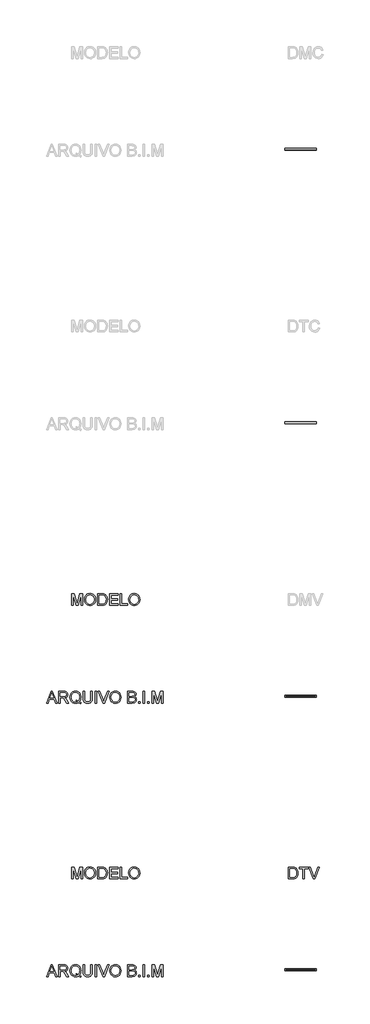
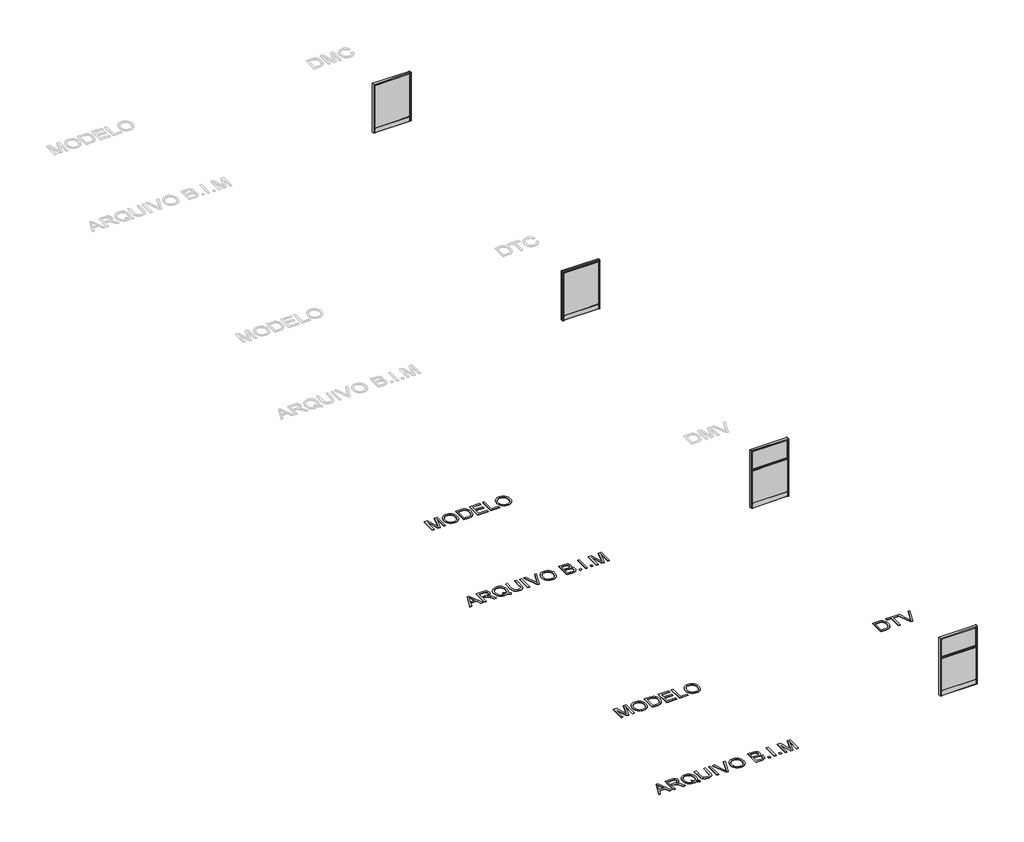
# One storey, part 1 of 3: 5 proxies, 4 furniture elements.
"""IFC4 building model written with IfcOpenShell, lengths in millimetres."""

from ifc_helpers import new_model, si_unit, origin, origin_with_axes, place, context, project, spatial, polyline, outline, extrude, transform, mapped, element, save
from components import dmc_0811_314b756a, dmv_0813_80cdf125

model = new_model("IFC4")

# Units and contexts
model_context = context("Model", 3, world=origin())
ifc_project = project(units=[si_unit("LENGTHUNIT", "METRE", prefix="MILLI")], contexts=[model_context])

# Site, building, storey
site = spatial("IfcSite", under=ifc_project)
building = spatial("IfcBuilding", under=site)
storey = spatial("IfcBuildingStorey", under=building, Name="Marelli - Linha DIVISION - Planta Baixa", Elevation=0.0)

# Proxies
placement = place(None, origin())
element("IfcBuildingElementProxy", 1, Name="300mm Arial", ObjectType="300mm Arial", at=placement, inside=storey, context=model_context, shape_type="SweptSolid", body=[
    extrude(outline(polyline([(4390.580402, -17280.5663201), (4510.8778144, -16979.1973896), (4542.9571244, -16979.1973896), (4663.2545368, -17280.5663201), (4623.449705, -17280.5663201), (4588.9423738, -17186.3885293), (4464.8189886, -17186.3885293), (4430.3852339, -17280.5663201), (4390.580402, -17280.5663201)]), holes=[polyline([(4478.6513517, -17148.717413), (4575.1835872, -17148.717413), (4548.0338959, -17074.6259792), (4526.9174694, -17016.8685059), (4508.1554877, -17068.1512561), (4478.6513517, -17148.717413)])]), origin_with_axes(), (0.0, 0.0, 1.0), 10.0),
    extrude(outline(polyline([(4703.5008271, -17280.5663201), (4703.5008271, -16979.1973896), (4833.3631714, -16979.1973896), (4868.2659757, -16981.2299376), (4893.6590304, -16987.3275817), (4912.2186771, -16998.5847708), (4926.6212572, -17016.0959537), (4935.8642923, -17037.8101885), (4938.945304, -17061.6765329), (4933.8409413, -17091.3646099), (4918.5278533, -17115.9759154), (4906.9280741, -17126.0052983), (4892.5461874, -17134.0205273), (4855.4360911, -17144.0085235), (4876.8468232, -17160.1217548), (4907.3810288, -17198.8965171), (4957.6337094, -17280.5663201), (4913.855752, -17280.5663201), (4874.6395313, -17218.0999573), (4846.3126176, -17176.750021), (4826.4102017, -17157.2154871), (4808.4943485, -17150.0417882), (4786.642158, -17148.717413), (4741.1719434, -17148.717413), (4741.1719434, -17280.5663201), (4703.5008271, -17280.5663201)]), holes=[polyline([(4741.1719434, -17111.0462967), (4825.4904967, -17111.0462967), (4849.706329, -17109.7127245), (4868.4959019, -17105.7120078), (4882.6409647, -17098.7774322), (4892.9232664, -17088.6422832), (4899.1864574, -17076.3826157), (4901.2741877, -17063.0744845), (4897.2918651, -17044.6987789), (4885.3448973, -17029.8915286), (4864.7894908, -17020.1242616), (4834.9818522, -17016.8685059), (4741.1719434, -17016.8685059), (4741.1719434, -17111.0462967)])]), origin_with_axes(), (0.0, 0.0, 1.0), 10.0),
    extrude(outline(polyline([(5231.2643374, -17244.4403081), (5255.5997314, -17263.036743), (5277.9853508, -17275.8574305), (5267.8318077, -17303.4485802), (5236.7641732, -17289.0460001), (5205.8069033, -17268.205485), (5170.9500843, -17281.0077785), (5132.5983863, -17285.2752096), (5094.0627473, -17280.3547879), (5059.2427164, -17265.5935229), (5030.0788713, -17241.9203165), (5008.5117893, -17210.2640708), (4995.185264, -17172.3630282), (4990.7430889, -17129.9554312), (4995.176067, -17087.511046), (5008.4750011, -17049.0581805), (5029.9593096, -17016.9512794), (5058.9484108, -16993.5447874), (5093.639683, -16979.2525719), (5132.2305043, -16974.4885001), (5171.1248282, -16979.3629365), (5205.9908443, -16993.9862458), (5234.9339603, -17017.3835407), (5256.0595839, -17048.5799339), (5268.9722419, -17085.9199564), (5273.2764612, -17127.7481393), (5270.6644991, -17162.5313819), (5262.8286126, -17193.5990164), (5249.7136194, -17220.9142546), (5231.2643374, -17244.4403081)]), holes=[polyline([(5142.9726585, -17194.3347804), (5174.6472983, -17206.3093393), (5200.215097, -17222.9559996), (5215.6983305, -17205.4816049), (5226.7577829, -17184.1076609), (5233.3934544, -17158.8341679), (5235.6053449, -17129.6611256), (5232.478348, -17096.5057608), (5223.0973571, -17067.8201623), (5207.6922985, -17044.3308969), (5186.4930986, -17026.7645316), (5160.934497, -17015.8108452), (5132.4512335, -17012.1596164), (5110.966925, -17014.0059242), (5091.3956028, -17019.5448474), (5073.7372671, -17028.7763863), (5057.9919177, -17041.7005406), (5045.0516685, -17058.2897193), (5035.8086334, -17078.5163313), (5030.2628123, -17102.3803764), (5028.4142052, -17129.8818548), (5030.2421189, -17156.6659634), (5035.7258599, -17180.1437324), (5044.8654282, -17200.3151621), (5057.6608239, -17217.1802523), (5073.2981079, -17230.4906827), (5090.9633415, -17239.9981331), (5110.6565245, -17245.7026032), (5132.3776571, -17247.6040933), (5153.2917485, -17245.6727128), (5172.918253, -17239.8785714), (5153.6228423, -17229.853787), (5133.2605739, -17223.1767288), (5142.9726585, -17194.3347804)])]), origin_with_axes(), (0.0, 0.0, 1.0), 10.0),
    extrude(outline(polyline([(5527.5564963, -16979.1973896), (5565.2276126, -16979.1973896), (5565.2276126, -17153.0584205), (5562.6708327, -17193.7737604), (5555.0004931, -17225.1265034), (5540.6714894, -17249.3147446), (5518.1387172, -17268.5365788), (5487.3469942, -17281.0905519), (5448.2411381, -17285.2752096), (5409.9906077, -17281.6331779), (5379.4104168, -17270.7070826), (5356.4913685, -17252.8740029), (5341.2242657, -17228.5110178), (5332.6434182, -17195.8338995), (5329.7831357, -17153.0584205), (5329.7831357, -16979.1973896), (5367.454252, -16979.1973896), (5367.454252, -17151.7340454), (5369.3120561, -17185.588386), (5374.8854683, -17209.1604248), (5384.9838291, -17225.4851883), (5400.4164788, -17237.597703), (5420.5396239, -17245.1024957), (5444.709471, -17247.6040933), (5483.0243808, -17242.6560805), (5497.3671801, -17236.4710644), (5508.500209, -17227.812042), (5516.8373347, -17215.6351479), (5522.7924245, -17198.8965171), (5527.5564963, -17151.7340454), (5527.5564963, -16979.1973896)])), origin_with_axes(), (0.0, 0.0, 1.0), 10.0),
    extrude(outline(polyline([(5635.8609557, -17280.5663201), (5635.8609557, -16979.1973896), (5673.532072, -16979.1973896), (5673.532072, -17280.5663201), (5635.8609557, -17280.5663201)])), origin_with_axes(), (0.0, 0.0, 1.0), 10.0),
    extrude(outline(polyline([(5837.9017474, -17280.5663201), (5717.972217, -16979.1973896), (5758.2920837, -16979.1973896), (5838.563935, -17196.3213432), (5854.8243192, -17245.2496485), (5870.8639742, -17196.3213432), (5951.3565547, -16979.1973896), (5991.6764214, -16979.1973896), (5876.8236625, -17280.5663201), (5837.9017474, -17280.5663201)])), origin_with_axes(), (0.0, 0.0, 1.0), 10.0),
    extrude(outline(polyline([(6012.5721187, -17133.8549804), (6015.0829134, -17098.5061192), (6022.6152972, -17067.213157), (6035.1692703, -17039.9760937), (6052.7448326, -17016.7949295), (6074.288922, -16998.2858666), (6098.7484761, -16985.0651074), (6126.1234951, -16977.1326519), (6156.4139789, -16974.4885001), (6195.9428992, -16979.454907), (6231.3883295, -16994.3541278), (6260.8188891, -17018.1376988), (6282.3031976, -17049.7571563), (6295.4365848, -17087.68579), (6299.8143806, -17130.3968896), (6295.2066586, -17173.6782064), (6281.3834926, -17212.140269), (6259.1082378, -17243.8149088), (6229.1442493, -17266.733957), (6194.0023217, -17280.6398965), (6156.1932497, -17285.2752096), (6116.057324, -17280.1524528), (6080.4095587, -17264.7841825), (6051.0525754, -17240.5591531), (6029.7889961, -17208.8661192), (6016.8763381, -17172.3998164), (6012.5721187, -17133.8549804)]), holes=[polyline([(6050.2432351, -17134.2228624), (6052.126331, -17159.1974513), (6057.7756189, -17181.3669401), (6067.1910987, -17200.7313286), (6080.3727705, -17217.2906169), (6096.3963306, -17230.5527628), (6114.3374757, -17240.0257242), (6134.1962056, -17245.709501), (6155.9725205, -17247.6040933), (6178.1213158, -17245.6911069), (6198.2145706, -17239.9521478), (6216.2522846, -17230.3872159), (6232.2344581, -17216.9963113), (6245.3195608, -17200.0875351), (6254.6660627, -17179.9689885), (6260.2739639, -17156.6406715), (6262.1432643, -17130.102584), (6258.9426909, -17096.7540812), (6249.3409708, -17067.9305269), (6233.5864244, -17044.358488), (6211.9273719, -17026.7645316), (6185.7985532, -17015.8108452), (6156.6347081, -17012.1596164), (6135.6148506, -17013.9185522), (6116.1125063, -17019.1953595), (6098.1276752, -17027.9900385), (6081.6603574, -17040.302589), (6067.9153664, -17056.7262208), (6058.0975156, -17077.8541437), (6052.2068052, -17103.6863575), (6050.2432351, -17134.2228624)])]), origin_with_axes(), (0.0, 0.0, 1.0), 10.0),
    extrude(outline(polyline([(6469.334404, -17280.5663201), (6469.334404, -16979.1973896), (6584.3343156, -16979.1973896), (6615.9629702, -16981.4138786), (6640.6570491, -16988.0633457), (6659.5845778, -16999.3113377), (6673.9135815, -17015.3234015), (6682.9358874, -17034.1589597), (6685.9433227, -17053.8774346), (6683.414134, -17072.0232141), (6675.8265679, -17089.0837416), (6663.125442, -17104.0105535), (6645.2555741, -17115.7551862), (6666.6019268, -17126.9020107), (6682.3748674, -17143.8613707), (6692.1145432, -17165.5112261), (6695.3611018, -17190.7295368), (6693.1446128, -17211.7447958), (6686.4951457, -17231.2333445), (6676.5715289, -17247.8064284), (6664.5325906, -17260.0752929), (6649.7897196, -17268.9596431), (6631.7543048, -17275.3791839), (6583.4513989, -17280.5663201), (6469.334404, -17280.5663201)]), holes=[polyline([(6507.0055203, -17101.6285176), (6575.7994534, -17101.6285176), (6615.9721672, -17098.3911561), (6630.0344565, -17092.8085468), (6640.1420143, -17084.4484284), (6646.2396584, -17073.4395597), (6648.2722064, -17059.9106994), (6646.3776141, -17046.7773121), (6640.6938373, -17035.3361821), (6631.4783933, -17026.4058467), (6618.9887996, -17020.8048433), (6570.575529, -17016.8685059), (6507.0055203, -17016.8685059), (6507.0055203, -17101.6285176)]), polyline([(6507.0055203, -17242.8952038), (6584.2607393, -17242.8952038), (6612.2197709, -17241.4236758), (6635.8745832, -17233.2199073), (6651.5463562, -17216.4812765), (6656.1540782, -17204.6538704), (6657.6899855, -17191.0974188), (6655.8873637, -17175.3520694), (6650.4794984, -17161.814012), (6641.0341282, -17151.2282076), (6627.1189917, -17144.3396173), (6607.4097138, -17140.5596298), (6580.5819193, -17139.2996339), (6507.0055203, -17139.2996339), (6507.0055203, -17242.8952038)])]), origin_with_axes(), (0.0, 0.0, 1.0), 10.0),
    extrude(outline(polyline([(6751.8677763, -17280.5663201), (6751.8677763, -17242.8952038), (6789.5388926, -17242.8952038), (6789.5388926, -17280.5663201), (6751.8677763, -17280.5663201)])), origin_with_axes(), (0.0, 0.0, 1.0), 10.0),
    extrude(outline(polyline([(6869.5900147, -17280.5663201), (6869.5900147, -16979.1973896), (6907.261131, -16979.1973896), (6907.261131, -17280.5663201), (6869.5900147, -17280.5663201)])), origin_with_axes(), (0.0, 0.0, 1.0), 10.0),
    extrude(outline(polyline([(6987.3122532, -17280.5663201), (6987.3122532, -17242.8952038), (7024.9833695, -17242.8952038), (7024.9833695, -17280.5663201), (6987.3122532, -17280.5663201)])), origin_with_axes(), (0.0, 0.0, 1.0), 10.0),
    extrude(outline(polyline([(7100.3256021, -17280.5663201), (7100.3256021, -16979.1973896), (7165.1464096, -16979.1973896), (7226.803432, -17191.6124536), (7239.2378435, -17235.9790223), (7252.7023245, -17187.9336337), (7313.3292773, -16979.1973896), (7378.1500848, -16979.1973896), (7378.1500848, -17280.5663201), (7340.4789685, -17280.5663201), (7340.4789685, -17016.8685059), (7264.7688539, -17280.5663201), (7213.706833, -17280.5663201), (7137.9967184, -17016.8685059), (7137.9967184, -17280.5663201), (7100.3256021, -17280.5663201)])), origin_with_axes(), (0.0, 0.0, 1.0), 10.0),
])
element("IfcBuildingElementProxy", 2, Name="300mm Arial", ObjectType="300mm Arial", at=placement, inside=storey, context=model_context, shape_type="SweptSolid", body=[
    extrude(outline(polyline([(10588.7720603, -14780.5663201), (10588.7720603, -14479.1973896), (10692.7355121, -14479.1973896), (10746.5198598, -14483.5383972), (10770.5425541, -14491.9077126), (10790.8128521, -14505.0962821), (10811.6533671, -14528.0521186), (10826.4974056, -14556.5997614), (10835.3817558, -14590.1873876), (10838.3432058, -14628.2631741), (10836.338249, -14660.6091985), (10830.3233783, -14689.0740679), (10821.1631167, -14713.3082943), (10809.7219866, -14732.9623899), (10796.5518112, -14748.477813), (10782.2044134, -14760.2960221), (10765.732497, -14769.0608107), (10746.188766, -14775.4159721), (10697.7387073, -14780.5663201), (10588.7720603, -14780.5663201)]), holes=[polyline([(10626.4431766, -14742.8952038), (10693.1033941, -14742.8952038), (10720.6761497, -14741.5340404), (10741.5902411, -14737.4505502), (10757.3723787, -14730.8838566), (10769.5492727, -14722.0730828), (10782.6366747, -14705.7667134), (10792.468321, -14684.6594839), (10798.6211474, -14658.6594239), (10800.6720895, -14627.6745629), (10796.6529787, -14586.6189322), (10784.5956463, -14556.3054558), (10766.7809607, -14535.4833349), (10745.4897902, -14522.9017706), (10723.8215407, -14518.3768221), (10692.0733245, -14516.8685059), (10626.4431766, -14516.8685059), (10626.4431766, -14742.8952038)])]), origin_with_axes(), (0.0, 0.0, 1.0), 10.0),
    extrude(outline(polyline([(10965.4832234, -14780.5663201), (10965.4832234, -14516.8685059), (10866.5965431, -14516.8685059), (10866.5965431, -14479.1973896), (11102.04102, -14479.1973896), (11102.04102, -14516.8685059), (11003.1543397, -14516.8685059), (11003.1543397, -14780.5663201), (10965.4832234, -14780.5663201)])), origin_with_axes(), (0.0, 0.0, 1.0), 10.0),
    extrude(outline(polyline([(11233.4484687, -14780.5663201), (11113.5189382, -14479.1973896), (11153.8388049, -14479.1973896), (11234.1106562, -14696.3213432), (11250.3710404, -14745.2496485), (11266.4106954, -14696.3213432), (11346.903276, -14479.1973896), (11387.2231426, -14479.1973896), (11272.3703837, -14780.5663201), (11233.4484687, -14780.5663201)])), origin_with_axes(), (0.0, 0.0, 1.0), 10.0),
])
element("IfcBuildingElementProxy", 3, Name="300mm Arial", ObjectType="300mm Arial", at=placement, inside=storey, context=model_context, shape_type="SweptSolid", body=[
    extrude(outline(polyline([(5033.1230948, -14780.5663201), (5033.1230948, -14479.1973896), (5097.9439023, -14479.1973896), (5159.6009247, -14691.6124536), (5172.0353362, -14735.9790223), (5185.4998172, -14687.9336337), (5246.12677, -14479.1973896), (5310.9475775, -14479.1973896), (5310.9475775, -14780.5663201), (5273.2764612, -14780.5663201), (5273.2764612, -14516.8685059), (5197.5663466, -14780.5663201), (5146.5043257, -14780.5663201), (5070.7942111, -14516.8685059), (5070.7942111, -14780.5663201), (5033.1230948, -14780.5663201)])), origin_with_axes(), (0.0, 0.0, 1.0), 10.0),
    extrude(outline(polyline([(5362.7453625, -14633.8549804), (5365.2561571, -14598.5061192), (5372.7885409, -14567.213157), (5385.342514, -14539.9760937), (5402.9180763, -14516.7949295), (5424.4621657, -14498.2858666), (5448.9217198, -14485.0651074), (5476.2967388, -14477.1326519), (5506.5872226, -14474.4885001), (5546.116143, -14479.454907), (5581.5615732, -14494.3541278), (5610.9921328, -14518.1376988), (5632.4764413, -14549.7571563), (5645.6098286, -14587.68579), (5649.9876243, -14630.3968896), (5645.3799023, -14673.6782064), (5631.5567363, -14712.140269), (5609.2814815, -14743.8149088), (5579.317493, -14766.733957), (5544.1755654, -14780.6398965), (5506.3664934, -14785.2752096), (5466.2305677, -14780.1524528), (5430.5828024, -14764.7841825), (5401.2258192, -14740.5591531), (5379.9622398, -14708.8661192), (5367.0495818, -14672.3998164), (5362.7453625, -14633.8549804)]), holes=[polyline([(5400.4164788, -14634.2228624), (5402.2995747, -14659.1974513), (5407.9488626, -14681.3669401), (5417.3643424, -14700.7313286), (5430.5460142, -14717.2906169), (5446.5695743, -14730.5527628), (5464.5107194, -14740.0257242), (5484.3694493, -14745.709501), (5506.1457642, -14747.6040933), (5528.2945596, -14745.6911069), (5548.3878143, -14739.9521478), (5566.4255284, -14730.3872159), (5582.4077018, -14716.9963113), (5595.4928045, -14700.0875351), (5604.8393064, -14679.9689885), (5610.4472076, -14656.6406715), (5612.316508, -14630.102584), (5609.1159346, -14596.7540812), (5599.5142146, -14567.9305269), (5583.7596681, -14544.358488), (5562.1006157, -14526.7645316), (5535.9717969, -14515.8108452), (5506.8079518, -14512.1596164), (5485.7880943, -14513.9185522), (5466.28575, -14519.1953595), (5448.300919, -14527.9900385), (5431.8336012, -14540.302589), (5418.0886101, -14556.7262208), (5408.2707594, -14577.8541437), (5402.3800489, -14603.6863575), (5400.4164788, -14634.2228624)])]), origin_with_axes(), (0.0, 0.0, 1.0), 10.0),
    extrude(outline(polyline([(5701.7854092, -14780.5663201), (5701.7854092, -14479.1973896), (5805.7488611, -14479.1973896), (5859.5332088, -14483.5383972), (5883.555903, -14491.9077126), (5903.826201, -14505.0962821), (5924.666716, -14528.0521186), (5939.5107545, -14556.5997614), (5948.3951047, -14590.1873876), (5951.3565547, -14628.2631741), (5949.3515979, -14660.6091985), (5943.3367273, -14689.0740679), (5934.1764656, -14713.3082943), (5922.7353355, -14732.9623899), (5909.5651601, -14748.477813), (5895.2177623, -14760.2960221), (5878.745846, -14769.0608107), (5859.202115, -14775.4159721), (5810.7520562, -14780.5663201), (5701.7854092, -14780.5663201)]), holes=[polyline([(5739.4565255, -14742.8952038), (5806.1167431, -14742.8952038), (5833.6894986, -14741.5340404), (5854.60359, -14737.4505502), (5870.3857276, -14730.8838566), (5882.5626217, -14722.0730828), (5895.6500236, -14705.7667134), (5905.4816699, -14684.6594839), (5911.6344963, -14658.6594239), (5913.6854384, -14627.6745629), (5909.6663276, -14586.6189322), (5897.6089953, -14556.3054558), (5879.7943096, -14535.4833349), (5858.5031392, -14522.9017706), (5836.8348896, -14518.3768221), (5805.0866735, -14516.8685059), (5739.4565255, -14516.8685059), (5739.4565255, -14742.8952038)])]), origin_with_axes(), (0.0, 0.0, 1.0), 10.0),
    extrude(outline(polyline([(6003.1543397, -14780.5663201), (6003.1543397, -14479.1973896), (6219.7632584, -14479.1973896), (6219.7632584, -14516.8685059), (6040.825456, -14516.8685059), (6040.825456, -14606.3374072), (6210.3454794, -14606.3374072), (6210.3454794, -14644.0085235), (6040.825456, -14644.0085235), (6040.825456, -14742.8952038), (6224.472148, -14742.8952038), (6224.472148, -14780.5663201), (6003.1543397, -14780.5663201)])), origin_with_axes(), (0.0, 0.0, 1.0), 10.0),
    extrude(outline(polyline([(6280.9788224, -14780.5663201), (6280.9788224, -14479.1973896), (6318.6499387, -14479.1973896), (6318.6499387, -14742.8952038), (6469.334404, -14742.8952038), (6469.334404, -14780.5663201), (6280.9788224, -14780.5663201)])), origin_with_axes(), (0.0, 0.0, 1.0), 10.0),
    extrude(outline(polyline([(6497.5877412, -14633.8549804), (6500.0985358, -14598.5061192), (6507.6309197, -14567.213157), (6520.1848927, -14539.9760937), (6537.7604551, -14516.7949295), (6559.3045444, -14498.2858666), (6583.7640986, -14485.0651074), (6611.1391175, -14477.1326519), (6641.4296013, -14474.4885001), (6680.9585217, -14479.454907), (6716.4039519, -14494.3541278), (6745.8345115, -14518.1376988), (6767.3188201, -14549.7571563), (6780.4522073, -14587.68579), (6784.830003, -14630.3968896), (6780.222281, -14673.6782064), (6766.3991151, -14712.140269), (6744.1238603, -14743.8149088), (6714.1598717, -14766.733957), (6679.0179442, -14780.6398965), (6641.2088721, -14785.2752096), (6601.0729464, -14780.1524528), (6565.4251811, -14764.7841825), (6536.0681979, -14740.5591531), (6514.8046186, -14708.8661192), (6501.8919605, -14672.3998164), (6497.5877412, -14633.8549804)]), holes=[polyline([(6535.2588575, -14634.2228624), (6537.1419535, -14659.1974513), (6542.7912413, -14681.3669401), (6552.2067212, -14700.7313286), (6565.3883929, -14717.2906169), (6581.4119531, -14730.5527628), (6599.3530981, -14740.0257242), (6619.2118281, -14745.709501), (6640.9881429, -14747.6040933), (6663.1369383, -14745.6911069), (6683.230193, -14739.9521478), (6701.2679071, -14730.3872159), (6717.2500805, -14716.9963113), (6730.3351832, -14700.0875351), (6739.6816852, -14679.9689885), (6745.2895863, -14656.6406715), (6747.1588867, -14630.102584), (6743.9583134, -14596.7540812), (6734.3565933, -14567.9305269), (6718.6020468, -14544.358488), (6696.9429944, -14526.7645316), (6670.8141757, -14515.8108452), (6641.6503305, -14512.1596164), (6620.630473, -14513.9185522), (6601.1281287, -14519.1953595), (6583.1432977, -14527.9900385), (6566.6759799, -14540.302589), (6552.9309888, -14556.7262208), (6543.1131381, -14577.8541437), (6537.2224276, -14603.6863575), (6535.2588575, -14634.2228624)])]), origin_with_axes(), (0.0, 0.0, 1.0), 10.0),
])
element("IfcBuildingElementProxy", 4, Name="300mm Arial", ObjectType="300mm Arial", at=placement, inside=storey, context=model_context, shape_type="SweptSolid", body=[
    extrude(outline(polyline([(4390.580402, -10280.5663201), (4510.8778144, -9979.1973896), (4542.9571244, -9979.1973896), (4663.2545368, -10280.5663201), (4623.449705, -10280.5663201), (4588.9423738, -10186.3885293), (4464.8189886, -10186.3885293), (4430.3852339, -10280.5663201), (4390.580402, -10280.5663201)]), holes=[polyline([(4478.6513517, -10148.717413), (4575.1835872, -10148.717413), (4548.0338959, -10074.6259792), (4526.9174694, -10016.8685059), (4508.1554877, -10068.1512561), (4478.6513517, -10148.717413)])]), origin_with_axes(), (0.0, 0.0, 1.0), 10.0),
    extrude(outline(polyline([(4703.5008271, -10280.5663201), (4703.5008271, -9979.1973896), (4833.3631714, -9979.1973896), (4868.2659757, -9981.2299376), (4893.6590304, -9987.3275817), (4912.2186771, -9998.5847708), (4926.6212572, -10016.0959537), (4935.8642923, -10037.8101885), (4938.945304, -10061.6765329), (4933.8409413, -10091.3646099), (4918.5278533, -10115.9759154), (4906.9280741, -10126.0052983), (4892.5461874, -10134.0205273), (4855.4360911, -10144.0085235), (4876.8468232, -10160.1217548), (4907.3810288, -10198.8965171), (4957.6337094, -10280.5663201), (4913.855752, -10280.5663201), (4874.6395313, -10218.0999573), (4846.3126176, -10176.750021), (4826.4102017, -10157.2154871), (4808.4943485, -10150.0417882), (4786.642158, -10148.717413), (4741.1719434, -10148.717413), (4741.1719434, -10280.5663201), (4703.5008271, -10280.5663201)]), holes=[polyline([(4741.1719434, -10111.0462967), (4825.4904967, -10111.0462967), (4849.706329, -10109.7127245), (4868.4959019, -10105.7120078), (4882.6409647, -10098.7774322), (4892.9232664, -10088.6422832), (4899.1864574, -10076.3826157), (4901.2741877, -10063.0744845), (4897.2918651, -10044.6987789), (4885.3448973, -10029.8915286), (4864.7894908, -10020.1242616), (4834.9818522, -10016.8685059), (4741.1719434, -10016.8685059), (4741.1719434, -10111.0462967)])]), origin_with_axes(), (0.0, 0.0, 1.0), 10.0),
    extrude(outline(polyline([(5231.2643374, -10244.4403081), (5255.5997314, -10263.036743), (5277.9853508, -10275.8574305), (5267.8318077, -10303.4485802), (5236.7641732, -10289.0460001), (5205.8069033, -10268.205485), (5170.9500843, -10281.0077785), (5132.5983863, -10285.2752096), (5094.0627473, -10280.3547879), (5059.2427164, -10265.5935229), (5030.0788713, -10241.9203165), (5008.5117893, -10210.2640708), (4995.185264, -10172.3630282), (4990.7430889, -10129.9554312), (4995.176067, -10087.511046), (5008.4750011, -10049.0581805), (5029.9593096, -10016.9512794), (5058.9484108, -9993.5447874), (5093.639683, -9979.2525719), (5132.2305043, -9974.4885001), (5171.1248282, -9979.3629365), (5205.9908443, -9993.9862458), (5234.9339603, -10017.3835407), (5256.0595839, -10048.5799339), (5268.9722419, -10085.9199564), (5273.2764612, -10127.7481393), (5270.6644991, -10162.5313819), (5262.8286126, -10193.5990164), (5249.7136194, -10220.9142546), (5231.2643374, -10244.4403081)]), holes=[polyline([(5142.9726585, -10194.3347804), (5174.6472983, -10206.3093393), (5200.215097, -10222.9559996), (5215.6983305, -10205.4816049), (5226.7577829, -10184.1076609), (5233.3934544, -10158.8341679), (5235.6053449, -10129.6611256), (5232.478348, -10096.5057608), (5223.0973571, -10067.8201623), (5207.6922985, -10044.3308969), (5186.4930986, -10026.7645316), (5160.934497, -10015.8108452), (5132.4512335, -10012.1596164), (5110.966925, -10014.0059242), (5091.3956028, -10019.5448474), (5073.7372671, -10028.7763863), (5057.9919177, -10041.7005406), (5045.0516685, -10058.2897193), (5035.8086334, -10078.5163313), (5030.2628123, -10102.3803764), (5028.4142052, -10129.8818548), (5030.2421189, -10156.6659634), (5035.7258599, -10180.1437324), (5044.8654282, -10200.3151621), (5057.6608239, -10217.1802523), (5073.2981079, -10230.4906827), (5090.9633415, -10239.9981331), (5110.6565245, -10245.7026032), (5132.3776571, -10247.6040933), (5153.2917485, -10245.6727128), (5172.918253, -10239.8785714), (5153.6228423, -10229.853787), (5133.2605739, -10223.1767288), (5142.9726585, -10194.3347804)])]), origin_with_axes(), (0.0, 0.0, 1.0), 10.0),
    extrude(outline(polyline([(5527.5564963, -9979.1973896), (5565.2276126, -9979.1973896), (5565.2276126, -10153.0584205), (5562.6708327, -10193.7737604), (5555.0004931, -10225.1265034), (5540.6714894, -10249.3147446), (5518.1387172, -10268.5365788), (5487.3469942, -10281.0905519), (5448.2411381, -10285.2752096), (5409.9906077, -10281.6331779), (5379.4104168, -10270.7070826), (5356.4913685, -10252.8740029), (5341.2242657, -10228.5110178), (5332.6434182, -10195.8338995), (5329.7831357, -10153.0584205), (5329.7831357, -9979.1973896), (5367.454252, -9979.1973896), (5367.454252, -10151.7340454), (5369.3120561, -10185.588386), (5374.8854683, -10209.1604248), (5384.9838291, -10225.4851883), (5400.4164788, -10237.597703), (5420.5396239, -10245.1024957), (5444.709471, -10247.6040933), (5483.0243808, -10242.6560805), (5497.3671801, -10236.4710644), (5508.500209, -10227.812042), (5516.8373347, -10215.6351479), (5522.7924245, -10198.8965171), (5527.5564963, -10151.7340454), (5527.5564963, -9979.1973896)])), origin_with_axes(), (0.0, 0.0, 1.0), 10.0),
    extrude(outline(polyline([(5635.8609557, -10280.5663201), (5635.8609557, -9979.1973896), (5673.532072, -9979.1973896), (5673.532072, -10280.5663201), (5635.8609557, -10280.5663201)])), origin_with_axes(), (0.0, 0.0, 1.0), 10.0),
    extrude(outline(polyline([(5837.9017474, -10280.5663201), (5717.972217, -9979.1973896), (5758.2920837, -9979.1973896), (5838.563935, -10196.3213432), (5854.8243192, -10245.2496485), (5870.8639742, -10196.3213432), (5951.3565547, -9979.1973896), (5991.6764214, -9979.1973896), (5876.8236625, -10280.5663201), (5837.9017474, -10280.5663201)])), origin_with_axes(), (0.0, 0.0, 1.0), 10.0),
    extrude(outline(polyline([(6012.5721187, -10133.8549804), (6015.0829134, -10098.5061192), (6022.6152972, -10067.213157), (6035.1692703, -10039.9760937), (6052.7448326, -10016.7949295), (6074.288922, -9998.2858666), (6098.7484761, -9985.0651074), (6126.1234951, -9977.1326519), (6156.4139789, -9974.4885001), (6195.9428992, -9979.454907), (6231.3883295, -9994.3541278), (6260.8188891, -10018.1376988), (6282.3031976, -10049.7571563), (6295.4365848, -10087.68579), (6299.8143806, -10130.3968896), (6295.2066586, -10173.6782064), (6281.3834926, -10212.140269), (6259.1082378, -10243.8149087), (6229.1442493, -10266.733957), (6194.0023217, -10280.6398965), (6156.1932497, -10285.2752096), (6116.057324, -10280.1524528), (6080.4095587, -10264.7841825), (6051.0525754, -10240.5591531), (6029.7889961, -10208.8661192), (6016.8763381, -10172.3998164), (6012.5721187, -10133.8549804)]), holes=[polyline([(6050.2432351, -10134.2228624), (6052.126331, -10159.1974513), (6057.7756189, -10181.3669401), (6067.1910987, -10200.7313286), (6080.3727705, -10217.2906169), (6096.3963306, -10230.5527628), (6114.3374757, -10240.0257242), (6134.1962056, -10245.709501), (6155.9725205, -10247.6040933), (6178.1213158, -10245.6911069), (6198.2145706, -10239.9521478), (6216.2522846, -10230.3872159), (6232.2344581, -10216.9963113), (6245.3195608, -10200.0875351), (6254.6660627, -10179.9689885), (6260.2739639, -10156.6406715), (6262.1432643, -10130.102584), (6258.9426909, -10096.7540812), (6249.3409708, -10067.9305269), (6233.5864244, -10044.358488), (6211.9273719, -10026.7645316), (6185.7985532, -10015.8108452), (6156.6347081, -10012.1596164), (6135.6148506, -10013.9185522), (6116.1125063, -10019.1953595), (6098.1276752, -10027.9900385), (6081.6603574, -10040.302589), (6067.9153664, -10056.7262208), (6058.0975156, -10077.8541437), (6052.2068052, -10103.6863575), (6050.2432351, -10134.2228624)])]), origin_with_axes(), (0.0, 0.0, 1.0), 10.0),
    extrude(outline(polyline([(6469.334404, -10280.5663201), (6469.334404, -9979.1973896), (6584.3343156, -9979.1973896), (6615.9629702, -9981.4138786), (6640.6570491, -9988.0633457), (6659.5845778, -9999.3113377), (6673.9135815, -10015.3234015), (6682.9358874, -10034.1589597), (6685.9433227, -10053.8774346), (6683.414134, -10072.0232141), (6675.8265679, -10089.0837416), (6663.125442, -10104.0105535), (6645.2555741, -10115.7551862), (6666.6019268, -10126.9020107), (6682.3748674, -10143.8613707), (6692.1145432, -10165.5112261), (6695.3611018, -10190.7295368), (6693.1446128, -10211.7447958), (6686.4951457, -10231.2333445), (6676.5715289, -10247.8064284), (6664.5325906, -10260.0752929), (6649.7897196, -10268.9596431), (6631.7543048, -10275.3791839), (6583.4513989, -10280.5663201), (6469.334404, -10280.5663201)]), holes=[polyline([(6507.0055203, -10101.6285176), (6575.7994534, -10101.6285176), (6615.9721672, -10098.3911561), (6630.0344565, -10092.8085468), (6640.1420143, -10084.4484284), (6646.2396584, -10073.4395597), (6648.2722064, -10059.9106994), (6646.3776141, -10046.7773121), (6640.6938373, -10035.3361821), (6631.4783933, -10026.4058467), (6618.9887996, -10020.8048433), (6570.575529, -10016.8685059), (6507.0055203, -10016.8685059), (6507.0055203, -10101.6285176)]), polyline([(6507.0055203, -10242.8952038), (6584.2607393, -10242.8952038), (6612.2197709, -10241.4236758), (6635.8745832, -10233.2199073), (6651.5463562, -10216.4812765), (6656.1540782, -10204.6538704), (6657.6899855, -10191.0974188), (6655.8873637, -10175.3520694), (6650.4794984, -10161.814012), (6641.0341282, -10151.2282076), (6627.1189917, -10144.3396173), (6607.4097138, -10140.5596298), (6580.5819193, -10139.2996339), (6507.0055203, -10139.2996339), (6507.0055203, -10242.8952038)])]), origin_with_axes(), (0.0, 0.0, 1.0), 10.0),
    extrude(outline(polyline([(6751.8677763, -10280.5663201), (6751.8677763, -10242.8952038), (6789.5388926, -10242.8952038), (6789.5388926, -10280.5663201), (6751.8677763, -10280.5663201)])), origin_with_axes(), (0.0, 0.0, 1.0), 10.0),
    extrude(outline(polyline([(6869.5900147, -10280.5663201), (6869.5900147, -9979.1973896), (6907.261131, -9979.1973896), (6907.261131, -10280.5663201), (6869.5900147, -10280.5663201)])), origin_with_axes(), (0.0, 0.0, 1.0), 10.0),
    extrude(outline(polyline([(6987.3122532, -10280.5663201), (6987.3122532, -10242.8952038), (7024.9833695, -10242.8952038), (7024.9833695, -10280.5663201), (6987.3122532, -10280.5663201)])), origin_with_axes(), (0.0, 0.0, 1.0), 10.0),
    extrude(outline(polyline([(7100.3256021, -10280.5663201), (7100.3256021, -9979.1973896), (7165.1464096, -9979.1973896), (7226.803432, -10191.6124536), (7239.2378435, -10235.9790223), (7252.7023245, -10187.9336337), (7313.3292773, -9979.1973896), (7378.1500848, -9979.1973896), (7378.1500848, -10280.5663201), (7340.4789685, -10280.5663201), (7340.4789685, -10016.8685059), (7264.7688539, -10280.5663201), (7213.706833, -10280.5663201), (7137.9967184, -10016.8685059), (7137.9967184, -10280.5663201), (7100.3256021, -10280.5663201)])), origin_with_axes(), (0.0, 0.0, 1.0), 10.0),
])
element("IfcBuildingElementProxy", 5, Name="300mm Arial", ObjectType="300mm Arial", at=placement, inside=storey, context=model_context, shape_type="SweptSolid", body=[
    extrude(outline(polyline([(5033.1230948, -7780.5663201), (5033.1230948, -7479.1973896), (5097.9439023, -7479.1973896), (5159.6009247, -7691.6124536), (5172.0353362, -7735.9790223), (5185.4998172, -7687.9336337), (5246.12677, -7479.1973896), (5310.9475775, -7479.1973896), (5310.9475775, -7780.5663201), (5273.2764612, -7780.5663201), (5273.2764612, -7516.8685059), (5197.5663466, -7780.5663201), (5146.5043257, -7780.5663201), (5070.7942111, -7516.8685059), (5070.7942111, -7780.5663201), (5033.1230948, -7780.5663201)])), origin_with_axes(), (0.0, 0.0, 1.0), 10.0),
    extrude(outline(polyline([(5362.7453625, -7633.8549804), (5365.2561571, -7598.5061192), (5372.7885409, -7567.213157), (5385.342514, -7539.9760937), (5402.9180763, -7516.7949295), (5424.4621657, -7498.2858666), (5448.9217198, -7485.0651074), (5476.2967388, -7477.1326519), (5506.5872226, -7474.4885001), (5546.116143, -7479.454907), (5581.5615732, -7494.3541278), (5610.9921328, -7518.1376988), (5632.4764413, -7549.7571563), (5645.6098286, -7587.68579), (5649.9876243, -7630.3968896), (5645.3799023, -7673.6782064), (5631.5567363, -7712.140269), (5609.2814815, -7743.8149088), (5579.317493, -7766.733957), (5544.1755654, -7780.6398965), (5506.3664934, -7785.2752096), (5466.2305677, -7780.1524528), (5430.5828024, -7764.7841825), (5401.2258192, -7740.5591531), (5379.9622398, -7708.8661192), (5367.0495818, -7672.3998164), (5362.7453625, -7633.8549804)]), holes=[polyline([(5400.4164788, -7634.2228624), (5402.2995747, -7659.1974513), (5407.9488626, -7681.3669401), (5417.3643424, -7700.7313286), (5430.5460142, -7717.2906169), (5446.5695743, -7730.5527628), (5464.5107194, -7740.0257242), (5484.3694493, -7745.709501), (5506.1457642, -7747.6040933), (5528.2945596, -7745.6911069), (5548.3878143, -7739.9521478), (5566.4255284, -7730.3872159), (5582.4077018, -7716.9963113), (5595.4928045, -7700.0875351), (5604.8393064, -7679.9689885), (5610.4472076, -7656.6406715), (5612.316508, -7630.102584), (5609.1159346, -7596.7540812), (5599.5142146, -7567.9305269), (5583.7596681, -7544.358488), (5562.1006157, -7526.7645316), (5535.9717969, -7515.8108452), (5506.8079518, -7512.1596164), (5485.7880943, -7513.9185522), (5466.28575, -7519.1953595), (5448.300919, -7527.9900385), (5431.8336012, -7540.302589), (5418.0886101, -7556.7262208), (5408.2707594, -7577.8541437), (5402.3800489, -7603.6863575), (5400.4164788, -7634.2228624)])]), origin_with_axes(), (0.0, 0.0, 1.0), 10.0),
    extrude(outline(polyline([(5701.7854092, -7780.5663201), (5701.7854092, -7479.1973896), (5805.7488611, -7479.1973896), (5859.5332088, -7483.5383972), (5883.555903, -7491.9077126), (5903.826201, -7505.0962821), (5924.666716, -7528.0521186), (5939.5107545, -7556.5997614), (5948.3951047, -7590.1873876), (5951.3565547, -7628.2631741), (5949.3515979, -7660.6091985), (5943.3367273, -7689.0740679), (5934.1764656, -7713.3082943), (5922.7353355, -7732.9623899), (5909.5651601, -7748.477813), (5895.2177623, -7760.2960221), (5878.745846, -7769.0608107), (5859.202115, -7775.4159721), (5810.7520562, -7780.5663201), (5701.7854092, -7780.5663201)]), holes=[polyline([(5739.4565255, -7742.8952038), (5806.1167431, -7742.8952038), (5833.6894986, -7741.5340404), (5854.60359, -7737.4505502), (5870.3857276, -7730.8838566), (5882.5626217, -7722.0730828), (5895.6500236, -7705.7667134), (5905.4816699, -7684.6594839), (5911.6344963, -7658.6594239), (5913.6854384, -7627.6745629), (5909.6663276, -7586.6189322), (5897.6089953, -7556.3054558), (5879.7943096, -7535.4833349), (5858.5031392, -7522.9017706), (5836.8348896, -7518.3768221), (5805.0866735, -7516.8685059), (5739.4565255, -7516.8685059), (5739.4565255, -7742.8952038)])]), origin_with_axes(), (0.0, 0.0, 1.0), 10.0),
    extrude(outline(polyline([(6003.1543397, -7780.5663201), (6003.1543397, -7479.1973896), (6219.7632584, -7479.1973896), (6219.7632584, -7516.8685059), (6040.825456, -7516.8685059), (6040.825456, -7606.3374072), (6210.3454794, -7606.3374072), (6210.3454794, -7644.0085235), (6040.825456, -7644.0085235), (6040.825456, -7742.8952038), (6224.472148, -7742.8952038), (6224.472148, -7780.5663201), (6003.1543397, -7780.5663201)])), origin_with_axes(), (0.0, 0.0, 1.0), 10.0),
    extrude(outline(polyline([(6280.9788224, -7780.5663201), (6280.9788224, -7479.1973896), (6318.6499387, -7479.1973896), (6318.6499387, -7742.8952038), (6469.334404, -7742.8952038), (6469.334404, -7780.5663201), (6280.9788224, -7780.5663201)])), origin_with_axes(), (0.0, 0.0, 1.0), 10.0),
    extrude(outline(polyline([(6497.5877412, -7633.8549804), (6500.0985358, -7598.5061192), (6507.6309197, -7567.213157), (6520.1848927, -7539.9760937), (6537.7604551, -7516.7949295), (6559.3045444, -7498.2858666), (6583.7640986, -7485.0651074), (6611.1391175, -7477.1326519), (6641.4296013, -7474.4885001), (6680.9585217, -7479.454907), (6716.4039519, -7494.3541278), (6745.8345115, -7518.1376988), (6767.3188201, -7549.7571563), (6780.4522073, -7587.68579), (6784.830003, -7630.3968896), (6780.222281, -7673.6782064), (6766.3991151, -7712.140269), (6744.1238603, -7743.8149088), (6714.1598717, -7766.733957), (6679.0179442, -7780.6398965), (6641.2088721, -7785.2752096), (6601.0729464, -7780.1524528), (6565.4251811, -7764.7841825), (6536.0681979, -7740.5591531), (6514.8046186, -7708.8661192), (6501.8919605, -7672.3998164), (6497.5877412, -7633.8549804)]), holes=[polyline([(6535.2588575, -7634.2228624), (6537.1419535, -7659.1974513), (6542.7912413, -7681.3669401), (6552.2067212, -7700.7313286), (6565.3883929, -7717.2906169), (6581.4119531, -7730.5527628), (6599.3530981, -7740.0257242), (6619.2118281, -7745.709501), (6640.9881429, -7747.6040933), (6663.1369383, -7745.6911069), (6683.230193, -7739.9521478), (6701.2679071, -7730.3872159), (6717.2500805, -7716.9963113), (6730.3351832, -7700.0875351), (6739.6816852, -7679.9689885), (6745.2895863, -7656.6406715), (6747.1588867, -7630.102584), (6743.9583134, -7596.7540812), (6734.3565933, -7567.9305269), (6718.6020468, -7544.358488), (6696.9429944, -7526.7645316), (6670.8141757, -7515.8108452), (6641.6503305, -7512.1596164), (6620.630473, -7513.9185522), (6601.1281287, -7519.1953595), (6583.1432977, -7527.9900385), (6566.6759799, -7540.302589), (6552.9309888, -7556.7262208), (6543.1131381, -7577.8541437), (6537.2224276, -7603.6863575), (6535.2588575, -7634.2228624)])]), origin_with_axes(), (0.0, 0.0, 1.0), 10.0),
])

# Furniture
dmc_0811_shape = dmc_0811_314b756a(model_context)
element("IfcFurniture", 6, ObjectType="Mobiliário_MobiliáriodeEscritório_LinhaDivision_PainelDivisionCego-Melamina_Marelli : DMC 0811", at=placement, inside=storey, context=model_context, shape_type="MappedRepresentation", body=[
    mapped(dmc_0811_shape, transform((10501.9132146, 3869.4336799, 0.0), x_axis=(1.0, 0.0, 0.0), y_axis=(0.0, 1.0, 0.0), z_axis=(0.0, 0.0, 1.0))),
])
dmv_0813_shape = dmv_0813_80cdf125(model_context)
element("IfcFurniture", 7, ObjectType="Mobiliário_MobiliáriodeEscritório_LinhaDivision_PainelDivisionMisto-VidroeMelamina_Marelli : DMV 0813", at=placement, inside=storey, context=model_context, shape_type="MappedRepresentation", body=[
    mapped(dmv_0813_shape, transform((10501.9132146, -10130.5663201, 0.0), x_axis=(1.0, 0.0, 0.0), y_axis=(0.0, 1.0, 0.0), z_axis=(0.0, 0.0, 1.0))),
])
element("IfcFurniture", 8, ObjectType="Mobiliário_MobiliáriodeEscritório_LinhaDivision_PainelDivisionCego-Tecido_Marelli : DTC 0811", at=placement, inside=storey, context=model_context, shape_type="MappedRepresentation", body=[
    mapped(dmc_0811_shape, transform((10501.9132146, -3130.5663201, 0.0), x_axis=(1.0, 0.0, 0.0), y_axis=(0.0, 1.0, 0.0), z_axis=(0.0, 0.0, 1.0))),
])
element("IfcFurniture", 9, ObjectType="Mobiliário_MobiliáriodeEscritório_LinhaDivision_PainelDivisionMisto-VidroeTecido_Marelli : DTV 0813", at=placement, inside=storey, context=model_context, shape_type="MappedRepresentation", body=[
    mapped(dmv_0813_shape, transform((10501.9132146, -17130.5663201, 0.0), x_axis=(1.0, 0.0, 0.0), y_axis=(0.0, 1.0, 0.0), z_axis=(0.0, 0.0, 1.0))),
])

save(model, "model.ifc")
